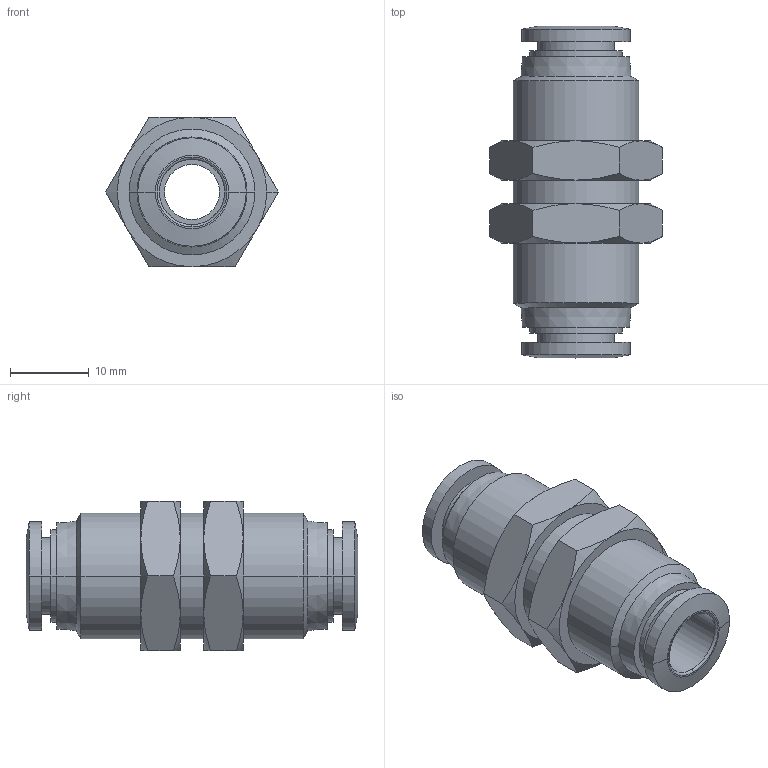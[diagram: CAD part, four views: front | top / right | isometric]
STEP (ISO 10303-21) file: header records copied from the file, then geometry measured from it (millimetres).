
FILE_DESCRIPTION (( 'STEP AP203' ), '1' );
FILE_NAME ('FE08-00.STEP', '2020-05-12T14:03:46', ( '' ), ( '' ), 'SwSTEP 2.0', 'SolidWorks 2019', '' );
FILE_SCHEMA (( 'CONFIG_CONTROL_DESIGN' ));
Length unit declared in the file: millimetre
Products named in the file (1): FE08-00
Bounding box: 21.94 x 42.2 x 19 mm (x, y, z)
Volume: 6415.6 mm3; surface area: 4138.3 mm2
Topology: 1 solids, 1 shells, 94 faces, 200 edges, 120 vertices
Faces by surface type: cone 40, plane 26, cylinder 24, torus 4
Entity records: 2557 total; most frequent: CARTESIAN_POINT 511, DIRECTION 442, ORIENTED_EDGE 400, EDGE_CURVE 200, AXIS2_PLACEMENT_3D 195, VERTEX_POINT 120, EDGE_LOOP 108, CIRCLE 100
